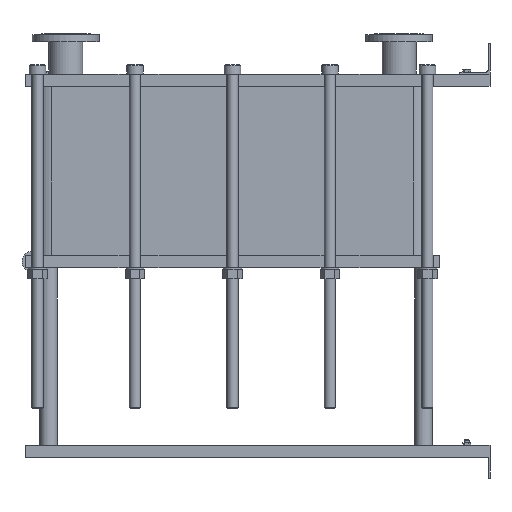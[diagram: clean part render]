
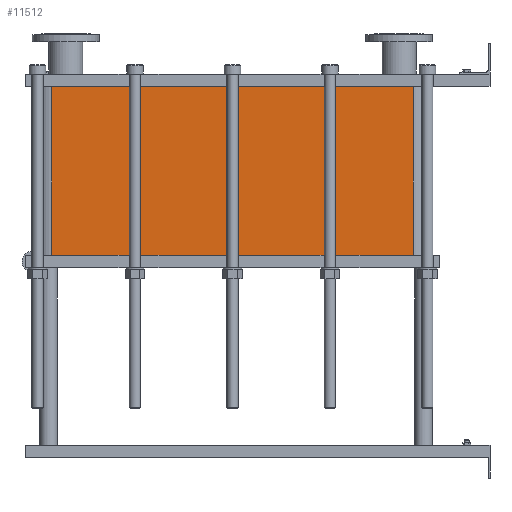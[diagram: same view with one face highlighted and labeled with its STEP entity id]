
A CAD part, left-side view. The second image highlights one B-rep face of the part: STEP entity #11512.
In plain terms, the highlighted planar face has unit normal (-1, 0, 0).
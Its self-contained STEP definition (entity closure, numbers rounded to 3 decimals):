
#1129=LINE('',#23232,#2102);
#1130=LINE('',#23236,#2103);
#1131=LINE('',#23238,#2104);
#1132=LINE('',#23239,#2105);
#2102=VECTOR('',#15887,10.);
#2103=VECTOR('',#15892,10.);
#2104=VECTOR('',#15893,10.);
#2105=VECTOR('',#15894,10.);
#3267=FACE_OUTER_BOUND('',#4093,.T.);
#4093=EDGE_LOOP('',(#10103,#10104,#10105,#10106));
#5642=VERTEX_POINT('',#23229);
#5643=VERTEX_POINT('',#23231);
#5644=VERTEX_POINT('',#23235);
#5645=VERTEX_POINT('',#23237);
#7159=EDGE_CURVE('',#5643,#5642,#1129,.T.);
#7161=EDGE_CURVE('',#5642,#5644,#1130,.T.);
#7162=EDGE_CURVE('',#5645,#5644,#1131,.T.);
#7163=EDGE_CURVE('',#5645,#5643,#1132,.T.);
#10103=ORIENTED_EDGE('',*,*,#7161,.T.);
#10104=ORIENTED_EDGE('',*,*,#7162,.F.);
#10105=ORIENTED_EDGE('',*,*,#7163,.T.);
#10106=ORIENTED_EDGE('',*,*,#7159,.T.);
#10857=PLANE('',#12751);
#11512=ADVANCED_FACE('',(#3267),#10857,.T.);
#12751=AXIS2_PLACEMENT_3D('',#23234,#15890,#15891);
#15887=DIRECTION('',(0.,0.,-1.));
#15890=DIRECTION('center_axis',(-1.,0.,0.));
#15891=DIRECTION('ref_axis',(0.,1.,0.));
#15892=DIRECTION('',(0.,-1.,0.));
#15893=DIRECTION('',(0.,0.,-1.));
#15894=DIRECTION('',(0.,1.,0.));
#23229=CARTESIAN_POINT('',(-200.,1414.,-545.1));
#23231=CARTESIAN_POINT('',(-200.,1414.,0.));
#23232=CARTESIAN_POINT('',(-200.,1414.,0.));
#23234=CARTESIAN_POINT('Origin',(-200.,248.,0.));
#23235=CARTESIAN_POINT('',(-200.,248.,-545.1));
#23236=CARTESIAN_POINT('',(-200.,539.5,-545.1));
#23237=CARTESIAN_POINT('',(-200.,248.,0.));
#23238=CARTESIAN_POINT('',(-200.,248.,0.));
#23239=CARTESIAN_POINT('',(-200.,248.,0.));
